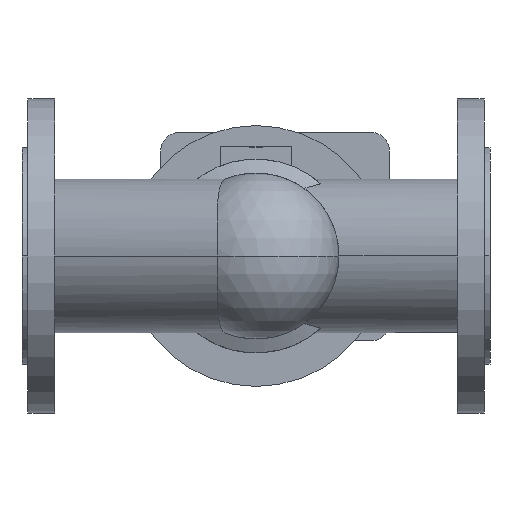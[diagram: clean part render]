
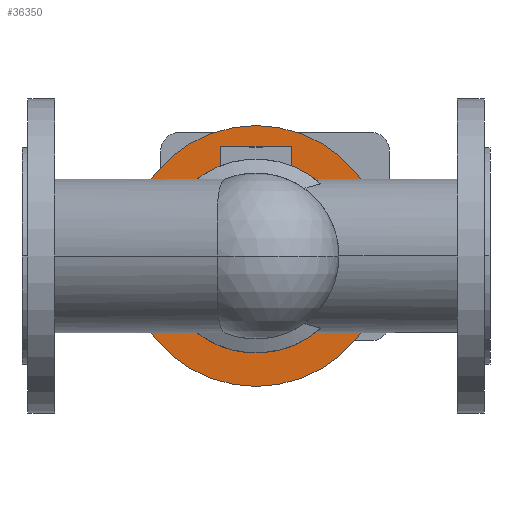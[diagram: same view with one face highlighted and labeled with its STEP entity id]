
A CAD part, front view. The second image highlights one B-rep face of the part: STEP entity #36350.
In plain terms, the highlighted planar face has unit normal (0, -1, 0).
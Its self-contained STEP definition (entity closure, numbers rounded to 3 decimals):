
#1450=CARTESIAN_POINT('',(247.5,89.3,0.));
#1460=VERTEX_POINT('',#1450);
#2920=CARTESIAN_POINT('',(102.5,89.3,0.));
#2930=VERTEX_POINT('',#2920);
#2960=CARTESIAN_POINT('',(175.,89.3,0.));
#2970=DIRECTION('',(0.,-1.,0.));
#2980=DIRECTION('',(-1.,0.,0.));
#2990=AXIS2_PLACEMENT_3D('',#2960,#2970,#2980);
#3000=CIRCLE('',#2990,72.5);
#3010=EDGE_CURVE('',#1460,#2930,#3000,.T.);
#20940=CARTESIAN_POINT('',(77.5,89.3,0.));
#20950=VERTEX_POINT('',#20940);
#21110=CARTESIAN_POINT('',(272.5,89.3,0.));
#21120=VERTEX_POINT('',#21110);
#21150=CARTESIAN_POINT('',(175.,89.3,0.));
#21160=DIRECTION('',(0.,-1.,0.));
#21170=DIRECTION('',(1.,0.,0.));
#21180=AXIS2_PLACEMENT_3D('',#21150,#21160,#21170);
#21190=CIRCLE('',#21180,97.5);
#21200=EDGE_CURVE('',#21120,#20950,#21190,.T.);
#36200=CARTESIAN_POINT('',(89.5,89.3,0.));
#36210=DIRECTION('',(0.,-1.,0.));
#36220=DIRECTION('',(-1.,0.,0.));
#36230=AXIS2_PLACEMENT_3D('',#36200,#36210,#36220);
#36240=PLANE('',#36230);
#36250=EDGE_CURVE('',#20950,#21120,#21190,.T.);
#36260=ORIENTED_EDGE('',*,*,#36250,.T.);
#36270=ORIENTED_EDGE('',*,*,#21200,.T.);
#36280=EDGE_LOOP('',(#36270,#36260));
#36290=FACE_OUTER_BOUND('',#36280,.T.);
#36300=EDGE_CURVE('',#2930,#1460,#3000,.T.);
#36310=ORIENTED_EDGE('',*,*,#36300,.F.);
#36320=ORIENTED_EDGE('',*,*,#3010,.F.);
#36330=EDGE_LOOP('',(#36320,#36310));
#36340=FACE_BOUND('',#36330,.T.);
#36350=ADVANCED_FACE('',(#36290,#36340),#36240,.T.);
